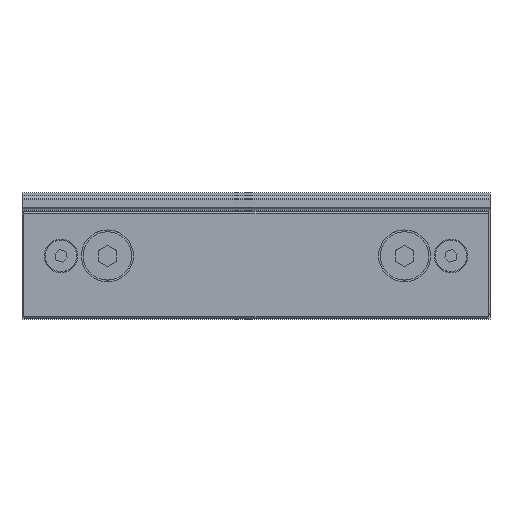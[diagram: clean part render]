
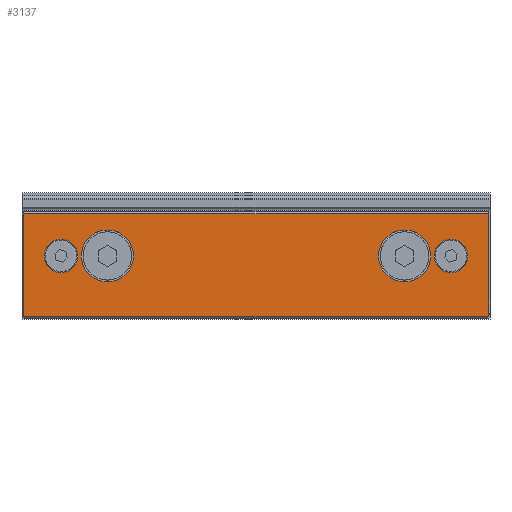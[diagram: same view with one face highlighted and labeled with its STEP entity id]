
A CAD part, top view. The second image highlights one B-rep face of the part: STEP entity #3137.
In plain terms, the highlighted planar face has unit normal (0, 0, 1).
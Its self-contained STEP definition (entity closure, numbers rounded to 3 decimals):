
#93 = FACE_BOUND ( 'NONE', #4004, .T. ) ;
#100 = DIRECTION ( 'NONE',  ( 0., 0., 1. ) ) ;
#114 = EDGE_LOOP ( 'NONE', ( #3384, #5214 ) ) ;
#167 = EDGE_CURVE ( 'NONE', #273, #5863, #932, .T. ) ;
#273 = VERTEX_POINT ( 'NONE', #2930 ) ;
#295 = CARTESIAN_POINT ( 'NONE',  ( -40., 0., 12.3 ) ) ;
#314 = EDGE_CURVE ( 'NONE', #5676, #6451, #4949, .T. ) ;
#508 = DIRECTION ( 'NONE',  ( 0., 0., -1. ) ) ;
#521 = VECTOR ( 'NONE', #6383, 1000. ) ;
#525 = DIRECTION ( 'NONE',  ( 0., 0., -1. ) ) ;
#566 = LINE ( 'NONE', #2884, #2661 ) ;
#638 = CARTESIAN_POINT ( 'NONE',  ( 52.5, 0., 12.3 ) ) ;
#771 = EDGE_CURVE ( 'NONE', #3056, #1371, #5461, .T. ) ;
#906 = AXIS2_PLACEMENT_3D ( 'NONE', #3251, #508, #5463 ) ;
#932 = CIRCLE ( 'NONE', #6031, 7. ) ;
#967 = ORIENTED_EDGE ( 'NONE', *, *, #314, .T. ) ;
#1012 = CARTESIAN_POINT ( 'NONE',  ( 62.5, -16.9, 12.3 ) ) ;
#1146 = ORIENTED_EDGE ( 'NONE', *, *, #771, .T. ) ;
#1159 = DIRECTION ( 'NONE',  ( 1., 0., 0. ) ) ;
#1160 = EDGE_CURVE ( 'NONE', #1371, #3056, #4410, .T. ) ;
#1271 = DIRECTION ( 'NONE',  ( 1., 0., 0. ) ) ;
#1326 = DIRECTION ( 'NONE',  ( 1., 0., 0. ) ) ;
#1341 = AXIS2_PLACEMENT_3D ( 'NONE', #6231, #6917, #5190 ) ;
#1371 = VERTEX_POINT ( 'NONE', #2553 ) ;
#1435 = VERTEX_POINT ( 'NONE', #4178 ) ;
#1665 = ORIENTED_EDGE ( 'NONE', *, *, #1160, .T. ) ;
#1677 = FACE_OUTER_BOUND ( 'NONE', #6336, .T. ) ;
#1812 = CARTESIAN_POINT ( 'NONE',  ( -52.5, 0., 12.3 ) ) ;
#1848 = DIRECTION ( 'NONE',  ( 0., 0., 1. ) ) ;
#1950 = DIRECTION ( 'NONE',  ( -1., 0., 0. ) ) ;
#2009 = DIRECTION ( 'NONE',  ( 0., 1., 0. ) ) ;
#2209 = FACE_BOUND ( 'NONE', #2563, .T. ) ;
#2275 = ORIENTED_EDGE ( 'NONE', *, *, #167, .T. ) ;
#2419 = CIRCLE ( 'NONE', #6810, 4.5 ) ;
#2450 = VERTEX_POINT ( 'NONE', #5143 ) ;
#2525 = ORIENTED_EDGE ( 'NONE', *, *, #3733, .T. ) ;
#2549 = CARTESIAN_POINT ( 'NONE',  ( -62.5, 11.33, 12.3 ) ) ;
#2553 = CARTESIAN_POINT ( 'NONE',  ( 47., 0., 12.3 ) ) ;
#2563 = EDGE_LOOP ( 'NONE', ( #6938, #5028 ) ) ;
#2597 = CARTESIAN_POINT ( 'NONE',  ( 57., 0., 12.3 ) ) ;
#2661 = VECTOR ( 'NONE', #5594, 1000. ) ;
#2678 = AXIS2_PLACEMENT_3D ( 'NONE', #638, #100, #1159 ) ;
#2731 = CARTESIAN_POINT ( 'NONE',  ( 62.5, 11.83, 12.3 ) ) ;
#2784 = CARTESIAN_POINT ( 'NONE',  ( -48., 0., 12.3 ) ) ;
#2884 = CARTESIAN_POINT ( 'NONE',  ( 62.5, 11.33, 12.3 ) ) ;
#2886 = VERTEX_POINT ( 'NONE', #5660 ) ;
#2930 = CARTESIAN_POINT ( 'NONE',  ( -47., 0., 12.3 ) ) ;
#2959 = CARTESIAN_POINT ( 'NONE',  ( -62.5, -16.4, 12.3 ) ) ;
#3018 = CARTESIAN_POINT ( 'NONE',  ( 62.5, -16.4, 12.3 ) ) ;
#3056 = VERTEX_POINT ( 'NONE', #3703 ) ;
#3137 = ADVANCED_FACE ( 'NONE', ( #2209, #93, #5588, #3902, #1677 ), #6169, .F. ) ;
#3216 = EDGE_CURVE ( 'NONE', #5617, #2886, #6109, .T. ) ;
#3251 = CARTESIAN_POINT ( 'NONE',  ( -40., 0., 12.3 ) ) ;
#3369 = DIRECTION ( 'NONE',  ( -1., 0., 0. ) ) ;
#3384 = ORIENTED_EDGE ( 'NONE', *, *, #3216, .F. ) ;
#3443 = CARTESIAN_POINT ( 'NONE',  ( -57., 0., 12.3 ) ) ;
#3502 = LINE ( 'NONE', #3018, #521 ) ;
#3697 = LINE ( 'NONE', #1012, #5663 ) ;
#3703 = CARTESIAN_POINT ( 'NONE',  ( 33., 0., 12.3 ) ) ;
#3733 = EDGE_CURVE ( 'NONE', #2450, #5676, #566, .T. ) ;
#3821 = DIRECTION ( 'NONE',  ( 0., -1., 0. ) ) ;
#3897 = EDGE_CURVE ( 'NONE', #5261, #5582, #2419, .T. ) ;
#3902 = FACE_BOUND ( 'NONE', #4124, .T. ) ;
#4004 = EDGE_LOOP ( 'NONE', ( #2275, #6420 ) ) ;
#4039 = DIRECTION ( 'NONE',  ( -1., 0., 0. ) ) ;
#4124 = EDGE_LOOP ( 'NONE', ( #1146, #1665 ) ) ;
#4178 = CARTESIAN_POINT ( 'NONE',  ( 62.5, -16.4, 12.3 ) ) ;
#4278 = EDGE_CURVE ( 'NONE', #1435, #2450, #3697, .T. ) ;
#4410 = CIRCLE ( 'NONE', #6386, 7. ) ;
#4517 = AXIS2_PLACEMENT_3D ( 'NONE', #6814, #5730, #4656 ) ;
#4642 = VECTOR ( 'NONE', #3821, 1000. ) ;
#4656 = DIRECTION ( 'NONE',  ( -1., 0., 0. ) ) ;
#4665 = DIRECTION ( 'NONE',  ( 0., 0., -1. ) ) ;
#4669 = CARTESIAN_POINT ( 'NONE',  ( 40., 0., 12.3 ) ) ;
#4688 = EDGE_CURVE ( 'NONE', #5863, #273, #5896, .T. ) ;
#4761 = CARTESIAN_POINT ( 'NONE',  ( -52.5, 0., 12.3 ) ) ;
#4863 = AXIS2_PLACEMENT_3D ( 'NONE', #1812, #1848, #1326 ) ;
#4949 = LINE ( 'NONE', #5595, #4642 ) ;
#5028 = ORIENTED_EDGE ( 'NONE', *, *, #5111, .F. ) ;
#5111 = EDGE_CURVE ( 'NONE', #5582, #5261, #7048, .T. ) ;
#5143 = CARTESIAN_POINT ( 'NONE',  ( 62.5, 11.33, 12.3 ) ) ;
#5190 = DIRECTION ( 'NONE',  ( 1., 0., 0. ) ) ;
#5214 = ORIENTED_EDGE ( 'NONE', *, *, #5758, .F. ) ;
#5261 = VERTEX_POINT ( 'NONE', #2784 ) ;
#5310 = DIRECTION ( 'NONE',  ( 0., 0., -1. ) ) ;
#5398 = ORIENTED_EDGE ( 'NONE', *, *, #6975, .T. ) ;
#5450 = CIRCLE ( 'NONE', #2678, 4.5 ) ;
#5461 = CIRCLE ( 'NONE', #4517, 7. ) ;
#5463 = DIRECTION ( 'NONE',  ( -1., 0., 0. ) ) ;
#5582 = VERTEX_POINT ( 'NONE', #3443 ) ;
#5588 = FACE_BOUND ( 'NONE', #114, .T. ) ;
#5594 = DIRECTION ( 'NONE',  ( -1., 0., 0. ) ) ;
#5595 = CARTESIAN_POINT ( 'NONE',  ( -62.5, -16.9, 12.3 ) ) ;
#5617 = VERTEX_POINT ( 'NONE', #2597 ) ;
#5630 = AXIS2_PLACEMENT_3D ( 'NONE', #2731, #525, #3369 ) ;
#5660 = CARTESIAN_POINT ( 'NONE',  ( 48., 0., 12.3 ) ) ;
#5663 = VECTOR ( 'NONE', #2009, 1000. ) ;
#5676 = VERTEX_POINT ( 'NONE', #2549 ) ;
#5730 = DIRECTION ( 'NONE',  ( 0., 0., -1. ) ) ;
#5758 = EDGE_CURVE ( 'NONE', #2886, #5617, #5450, .T. ) ;
#5863 = VERTEX_POINT ( 'NONE', #6920 ) ;
#5896 = CIRCLE ( 'NONE', #906, 7. ) ;
#6031 = AXIS2_PLACEMENT_3D ( 'NONE', #295, #4665, #4039 ) ;
#6109 = CIRCLE ( 'NONE', #1341, 4.5 ) ;
#6169 = PLANE ( 'NONE',  #5630 ) ;
#6231 = CARTESIAN_POINT ( 'NONE',  ( 52.5, 0., 12.3 ) ) ;
#6238 = DIRECTION ( 'NONE',  ( 0., 0., 1. ) ) ;
#6294 = ORIENTED_EDGE ( 'NONE', *, *, #4278, .T. ) ;
#6336 = EDGE_LOOP ( 'NONE', ( #967, #5398, #6294, #2525 ) ) ;
#6383 = DIRECTION ( 'NONE',  ( 1., 0., 0. ) ) ;
#6386 = AXIS2_PLACEMENT_3D ( 'NONE', #4669, #5310, #1950 ) ;
#6420 = ORIENTED_EDGE ( 'NONE', *, *, #4688, .T. ) ;
#6451 = VERTEX_POINT ( 'NONE', #2959 ) ;
#6810 = AXIS2_PLACEMENT_3D ( 'NONE', #4761, #6238, #1271 ) ;
#6814 = CARTESIAN_POINT ( 'NONE',  ( 40., 0., 12.3 ) ) ;
#6917 = DIRECTION ( 'NONE',  ( 0., 0., 1. ) ) ;
#6920 = CARTESIAN_POINT ( 'NONE',  ( -33., 0., 12.3 ) ) ;
#6938 = ORIENTED_EDGE ( 'NONE', *, *, #3897, .F. ) ;
#6975 = EDGE_CURVE ( 'NONE', #6451, #1435, #3502, .T. ) ;
#7048 = CIRCLE ( 'NONE', #4863, 4.5 ) ;
